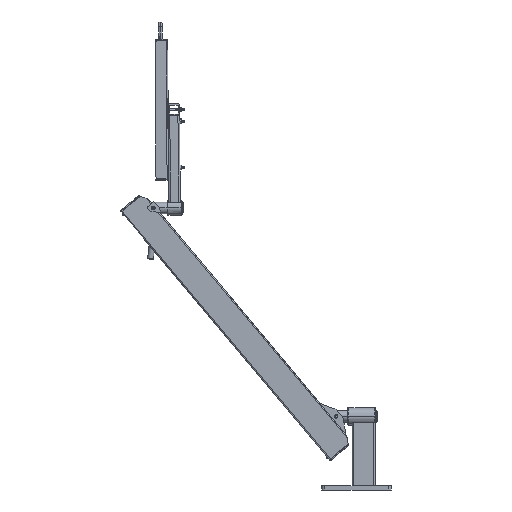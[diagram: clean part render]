
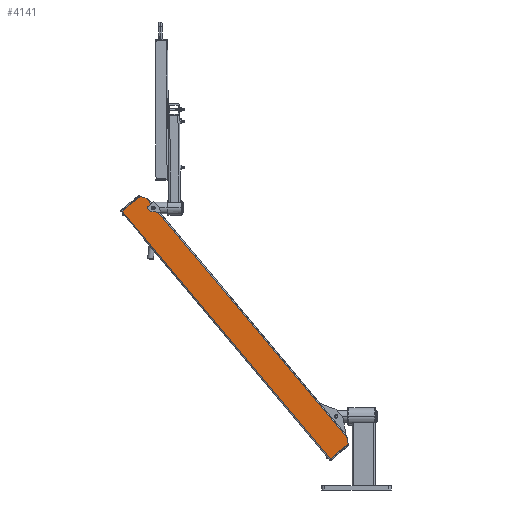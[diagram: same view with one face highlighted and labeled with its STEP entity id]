
A CAD part, left-side view. The second image highlights one B-rep face of the part: STEP entity #4141.
In plain terms, the highlighted planar face has unit normal (-1, 0, 0).
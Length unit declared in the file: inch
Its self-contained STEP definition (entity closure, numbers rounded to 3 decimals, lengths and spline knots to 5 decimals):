
#401 = CARTESIAN_POINT ( 'NONE',  ( -1.5, -0.1, 28. ) ) ;
#653 = FACE_OUTER_BOUND ( 'NONE', #38647, .T. ) ;
#2267 = LINE ( 'NONE', #52262, #76811 ) ;
#2646 = CARTESIAN_POINT ( 'NONE',  ( -1.5, -2.4, 28. ) ) ;
#3070 = LINE ( 'NONE', #52643, #44910 ) ;
#4141 = ADVANCED_FACE ( 'NONE', ( #653 ), #43632, .T. ) ;
#4529 = CARTESIAN_POINT ( 'NONE',  ( -1.5, -2.125, 0. ) ) ;
#6180 = VERTEX_POINT ( 'NONE', #45092 ) ;
#6291 = ORIENTED_EDGE ( 'NONE', *, *, #69854, .F. ) ;
#10130 = DIRECTION ( 'NONE',  ( 0., 1., 0. ) ) ;
#11030 = CIRCLE ( 'NONE', #36396, 0.14062 ) ;
#11864 = DIRECTION ( 'NONE',  ( 0., 1., 0. ) ) ;
#13230 = ORIENTED_EDGE ( 'NONE', *, *, #89532, .T. ) ;
#13401 = DIRECTION ( 'NONE',  ( 0., -1., 0. ) ) ;
#17211 = VERTEX_POINT ( 'NONE', #44705 ) ;
#17405 = VERTEX_POINT ( 'NONE', #17600 ) ;
#17600 = CARTESIAN_POINT ( 'NONE',  ( -1.5, -2.37942, 26.375 ) ) ;
#18034 = VECTOR ( 'NONE', #44337, 39.37008 ) ;
#20122 = VECTOR ( 'NONE', #62943, 39.37008 ) ;
#20155 = DIRECTION ( 'NONE',  ( 0., 0., -1. ) ) ;
#21561 = EDGE_CURVE ( 'NONE', #90871, #42880, #11030, .T. ) ;
#21672 = ORIENTED_EDGE ( 'NONE', *, *, #33473, .T. ) ;
#21724 = ORIENTED_EDGE ( 'NONE', *, *, #82656, .F. ) ;
#22793 = DIRECTION ( 'NONE',  ( 0., 0., -1. ) ) ;
#23273 = LINE ( 'NONE', #2646, #69488 ) ;
#23479 = EDGE_CURVE ( 'NONE', #45855, #69181, #2267, .T. ) ;
#24957 = AXIS2_PLACEMENT_3D ( 'NONE', #63457, #84438, #47108 ) ;
#26755 = ORIENTED_EDGE ( 'NONE', *, *, #66206, .F. ) ;
#27913 = VECTOR ( 'NONE', #11864, 39.37008 ) ;
#28825 = VECTOR ( 'NONE', #13401, 39.37008 ) ;
#29340 = VERTEX_POINT ( 'NONE', #401 ) ;
#29447 = ORIENTED_EDGE ( 'NONE', *, *, #83208, .T. ) ;
#29659 = DIRECTION ( 'NONE',  ( 0., -1., 0. ) ) ;
#31304 = DIRECTION ( 'NONE',  ( 1., 0., 0. ) ) ;
#32873 = CARTESIAN_POINT ( 'NONE',  ( -1.5, -2.4, 0.47631 ) ) ;
#33473 = EDGE_CURVE ( 'NONE', #87857, #29340, #58826, .T. ) ;
#33983 = CARTESIAN_POINT ( 'NONE',  ( -1.5, -2.4, 27.52369 ) ) ;
#34161 = CARTESIAN_POINT ( 'NONE',  ( -1.5, -2.4, 28. ) ) ;
#34909 = LINE ( 'NONE', #47995, #20122 ) ;
#35716 = CARTESIAN_POINT ( 'NONE',  ( -1.5, -0.1, 28. ) ) ;
#36396 = AXIS2_PLACEMENT_3D ( 'NONE', #66794, #31304, #67239 ) ;
#38647 = EDGE_LOOP ( 'NONE', ( #80745, #21672, #41314, #21724, #90192, #6291, #13230, #29447, #84997, #88688, #26755 ) ) ;
#39991 = EDGE_CURVE ( 'NONE', #29340, #6180, #34909, .T. ) ;
#41314 = ORIENTED_EDGE ( 'NONE', *, *, #39991, .T. ) ;
#42880 = VERTEX_POINT ( 'NONE', #50964 ) ;
#43502 = VECTOR ( 'NONE', #91165, 39.37008 ) ;
#43632 = PLANE ( 'NONE',  #48247 ) ;
#44337 = DIRECTION ( 'NONE',  ( 0., 1., 0. ) ) ;
#44705 = CARTESIAN_POINT ( 'NONE',  ( -1.5, -2.4, 26.375 ) ) ;
#44910 = VECTOR ( 'NONE', #10130, 39.37008 ) ;
#45092 = CARTESIAN_POINT ( 'NONE',  ( -1.5, -0.1, 0. ) ) ;
#45855 = VERTEX_POINT ( 'NONE', #4529 ) ;
#47108 = DIRECTION ( 'NONE',  ( 0., 1., 0. ) ) ;
#47995 = CARTESIAN_POINT ( 'NONE',  ( -1.5, -0.1, 28. ) ) ;
#48214 = LINE ( 'NONE', #83679, #43502 ) ;
#48247 = AXIS2_PLACEMENT_3D ( 'NONE', #35716, #72142, #29659 ) ;
#50964 = CARTESIAN_POINT ( 'NONE',  ( -1.5, -2.37942, 26.625 ) ) ;
#52262 = CARTESIAN_POINT ( 'NONE',  ( -1.5, -2.5, 0.64952 ) ) ;
#52643 = CARTESIAN_POINT ( 'NONE',  ( -1.5, -2.5, 26.375 ) ) ;
#52651 = CARTESIAN_POINT ( 'NONE',  ( -1.5, -0.1, 0. ) ) ;
#55341 = EDGE_CURVE ( 'NONE', #60511, #87857, #48214, .T. ) ;
#55928 = CARTESIAN_POINT ( 'NONE',  ( -1.5, -2.5, 26.625 ) ) ;
#56290 = CIRCLE ( 'NONE', #24957, 0.14062 ) ;
#58826 = LINE ( 'NONE', #66717, #18034 ) ;
#60511 = VERTEX_POINT ( 'NONE', #33983 ) ;
#60790 = EDGE_CURVE ( 'NONE', #42880, #92098, #64305, .T. ) ;
#62943 = DIRECTION ( 'NONE',  ( 0., 0., -1. ) ) ;
#63457 = CARTESIAN_POINT ( 'NONE',  ( -1.5, -2.315, 26.5 ) ) ;
#64305 = LINE ( 'NONE', #55928, #28825 ) ;
#66206 = EDGE_CURVE ( 'NONE', #60511, #92098, #23273, .T. ) ;
#66717 = CARTESIAN_POINT ( 'NONE',  ( -1.5, -0.1, 28. ) ) ;
#66794 = CARTESIAN_POINT ( 'NONE',  ( -1.5, -2.315, 26.5 ) ) ;
#67239 = DIRECTION ( 'NONE',  ( 0., 1., 0. ) ) ;
#69181 = VERTEX_POINT ( 'NONE', #32873 ) ;
#69488 = VECTOR ( 'NONE', #22793, 39.37008 ) ;
#69692 = LINE ( 'NONE', #34161, #81379 ) ;
#69854 = EDGE_CURVE ( 'NONE', #17211, #69181, #69692, .T. ) ;
#72142 = DIRECTION ( 'NONE',  ( -1., 0., 0. ) ) ;
#73456 = CARTESIAN_POINT ( 'NONE',  ( -1.5, -2.17438, 26.5 ) ) ;
#74683 = DIRECTION ( 'NONE',  ( 0., -0.5, 0.866 ) ) ;
#76341 = LINE ( 'NONE', #52651, #27913 ) ;
#76811 = VECTOR ( 'NONE', #74683, 39.37008 ) ;
#80745 = ORIENTED_EDGE ( 'NONE', *, *, #55341, .T. ) ;
#81379 = VECTOR ( 'NONE', #20155, 39.37008 ) ;
#82656 = EDGE_CURVE ( 'NONE', #45855, #6180, #76341, .T. ) ;
#83208 = EDGE_CURVE ( 'NONE', #17405, #90871, #56290, .T. ) ;
#83679 = CARTESIAN_POINT ( 'NONE',  ( -1.5, -2.5, 27.35048 ) ) ;
#84438 = DIRECTION ( 'NONE',  ( 1., 0., 0. ) ) ;
#84997 = ORIENTED_EDGE ( 'NONE', *, *, #21561, .T. ) ;
#87857 = VERTEX_POINT ( 'NONE', #88105 ) ;
#88105 = CARTESIAN_POINT ( 'NONE',  ( -1.5, -2.125, 28. ) ) ;
#88688 = ORIENTED_EDGE ( 'NONE', *, *, #60790, .T. ) ;
#89532 = EDGE_CURVE ( 'NONE', #17211, #17405, #3070, .T. ) ;
#90192 = ORIENTED_EDGE ( 'NONE', *, *, #23479, .T. ) ;
#90871 = VERTEX_POINT ( 'NONE', #73456 ) ;
#91165 = DIRECTION ( 'NONE',  ( 0., 0.5, 0.866 ) ) ;
#92098 = VERTEX_POINT ( 'NONE', #92424 ) ;
#92424 = CARTESIAN_POINT ( 'NONE',  ( -1.5, -2.4, 26.625 ) ) ;
